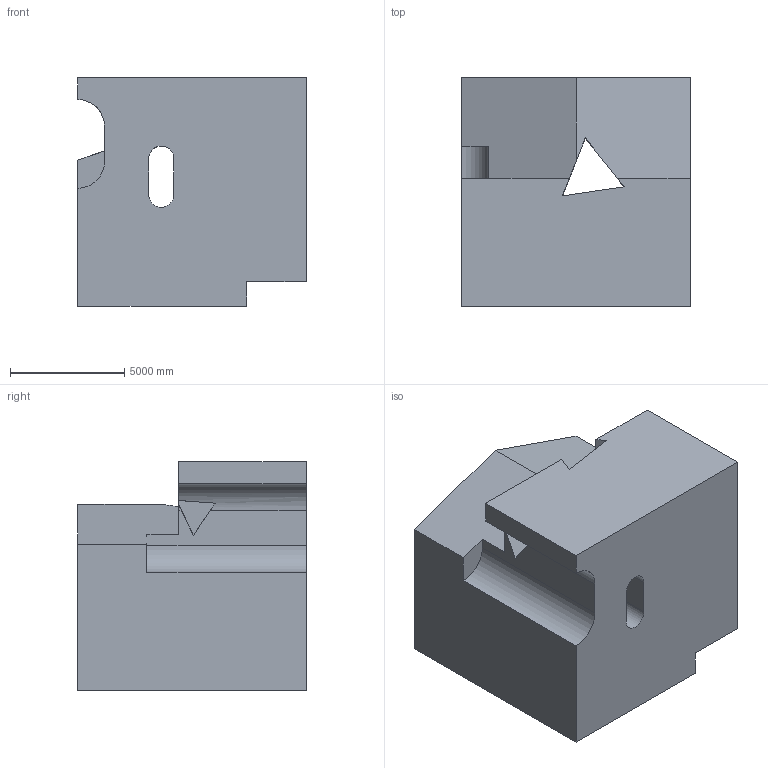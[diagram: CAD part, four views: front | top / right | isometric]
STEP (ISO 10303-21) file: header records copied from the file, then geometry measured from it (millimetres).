
FILE_DESCRIPTION (( 'STEP AP203' ), '1' );
FILE_NAME ('559.STEP', '2022-07-29T11:49:08', ( 'user' ), ( '' ), 'SwSTEP 2.0', 'SolidWorks 2021', '' );
FILE_SCHEMA (( 'CONFIG_CONTROL_DESIGN' ));
Length unit declared in the file: centimetre
Products named in the file (1): 559
Bounding box: 10000 x 10000 x 10000 mm (x, y, z)
Volume: 763389868165.1 mm3; surface area: 715617318.4 mm2
Topology: 1 solids, 1 shells, 35 faces, 108 edges, 72 vertices
Faces by surface type: plane 29, cylinder 6
Entity records: 1282 total; most frequent: CARTESIAN_POINT 237, ORIENTED_EDGE 216, DIRECTION 184, EDGE_CURVE 108, LINE 90, VECTOR 90, VERTEX_POINT 72, AXIS2_PLACEMENT_3D 47
